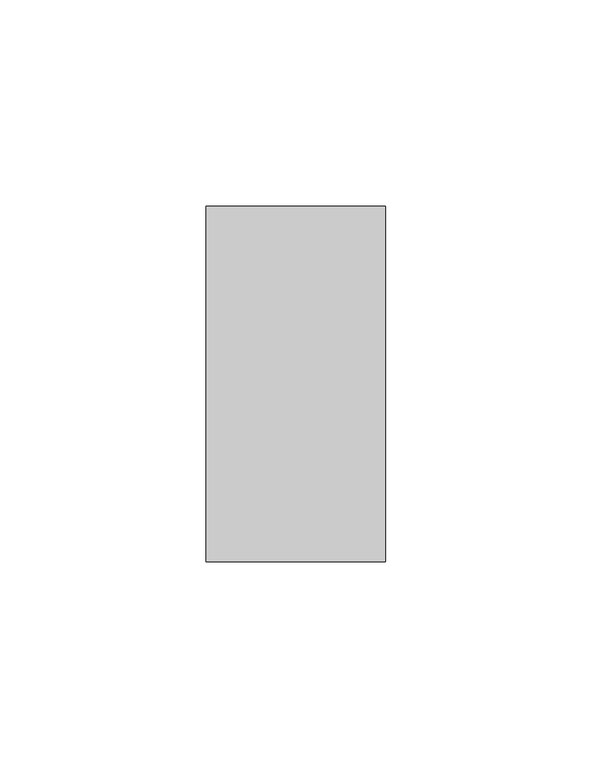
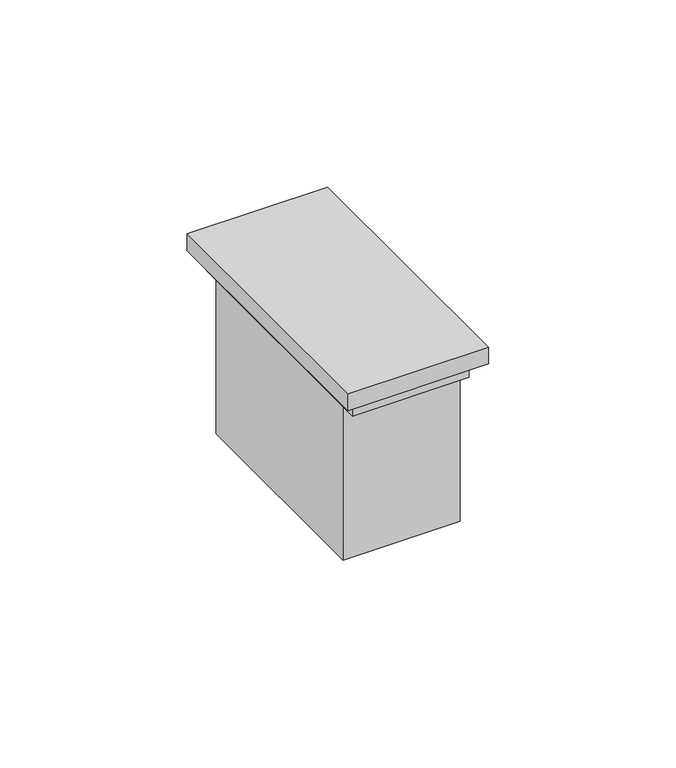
"""IFC4 building model written with IfcOpenShell, lengths in millimetres: proxy geometry, BT_LN-SegnalazioneAcustica_Suoneria_K4351V12 : Suoneria - Art. K4355V12 - 2M - Cover Sabbia."""

from ifc_helpers import new_model, si_unit, frame, origin, origin_with_axes, place, context, project, spatial, polyline, outline, extrude, source, transform, mapped, element, save


def communication_devices_b7847fef(model_context):
    return source(origin(), model_context, "Body", "SweptSolid", [
        extrude(outline(polyline([(-21.7, -43.0), (-21.7, 43.0), (21.7, 43.0), (21.7, -43.0), (-21.7, -43.0)])), frame((0.0, 0.0, 55.5), z_axis=(0.0, 0.0, 1.0), x_axis=(1.0, 0.0, 0.0)), (0.0, 0.0, 1.0), 5.5),
        extrude(outline(polyline([(-18.0, 39.0), (18.0, 39.0), (18.0, -39.0), (-18.0, -39.0), (-18.0, 39.0)])), frame((0.0, 0.0, 50.0), z_axis=(0.0, 0.0, 1.0), x_axis=(1.0, 0.0, 0.0)), (0.0, 0.0, 1.0), 5.5),
        extrude(outline(polyline([(-18.0, 34.0), (18.0, 34.0), (18.0, -34.0), (-18.0, -34.0), (-18.0, 34.0)])), origin_with_axes(), (0.0, 0.0, 1.0), 50.0),
    ])


if __name__ == "__main__":
    model = new_model("IFC4")
    model_context = context("Model", 3, world=origin())
    ifc_project = project(units=[si_unit("LENGTHUNIT", "METRE", prefix="MILLI")], contexts=[model_context])
    site = spatial("IfcSite", under=ifc_project)
    building = spatial("IfcBuilding", under=site)
    placement = place(None, origin())
    communication_devices_shape = communication_devices_b7847fef(model_context)
    element("IfcBuildingElementProxy", 1, Name="BT_LN-SegnalazioneAcustica_Suoneria_K4351V12 : Suoneria - Art. K4355V12 - 2M - Cover Sabbia", ObjectType="BT_LN-SegnalazioneAcustica_Suoneria_K4351V12 : Suoneria - Art. K4355V12 - 2M - Cover Sabbia", at=placement, inside=building, context=model_context, shape_type="MappedRepresentation", body=[
        mapped(communication_devices_shape, transform((0.0, 0.0, 0.0), x_axis=(1.0, 0.0, 0.0), y_axis=(0.0, 1.0, 0.0), z_axis=(0.0, 0.0, 1.0))),
    ])
    save(model, "model.ifc")
